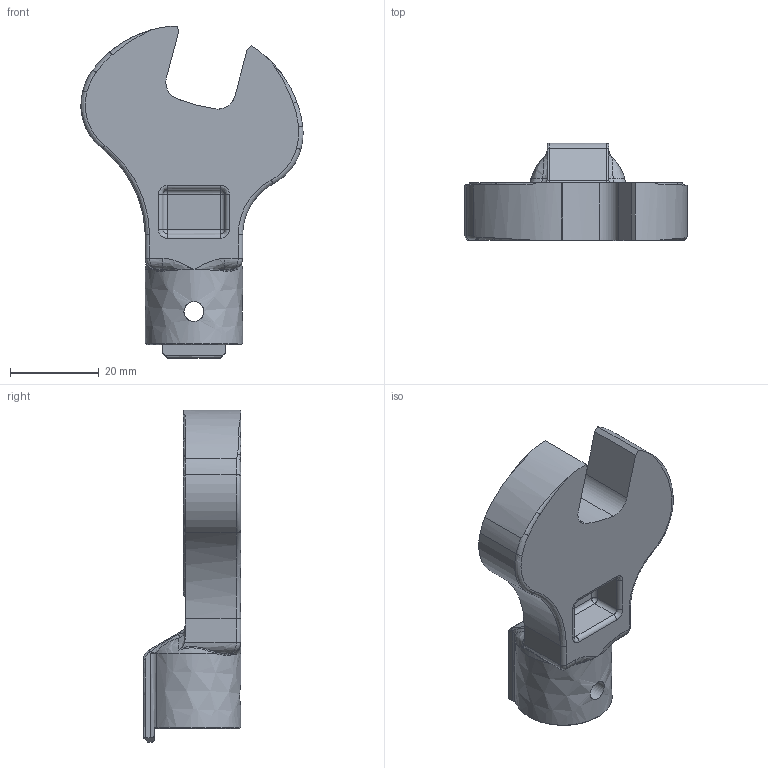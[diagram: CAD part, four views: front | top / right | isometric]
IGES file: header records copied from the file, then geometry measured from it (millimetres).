
Global section: file name: SH15DX16; native system: Autodesk Inventor 2016; preprocessor: unknown; author: Q600; date: 20151029.184517; units: millimetre
Bounding box: 50.17 x 22 x 74.98 mm (x, y, z)
Volume: 23763.1 mm3; surface area: 8504.9 mm2
Topology: 1 solids, 1 shells, 133 faces, 349 edges, 212 vertices
Faces by surface type: bspline 133
